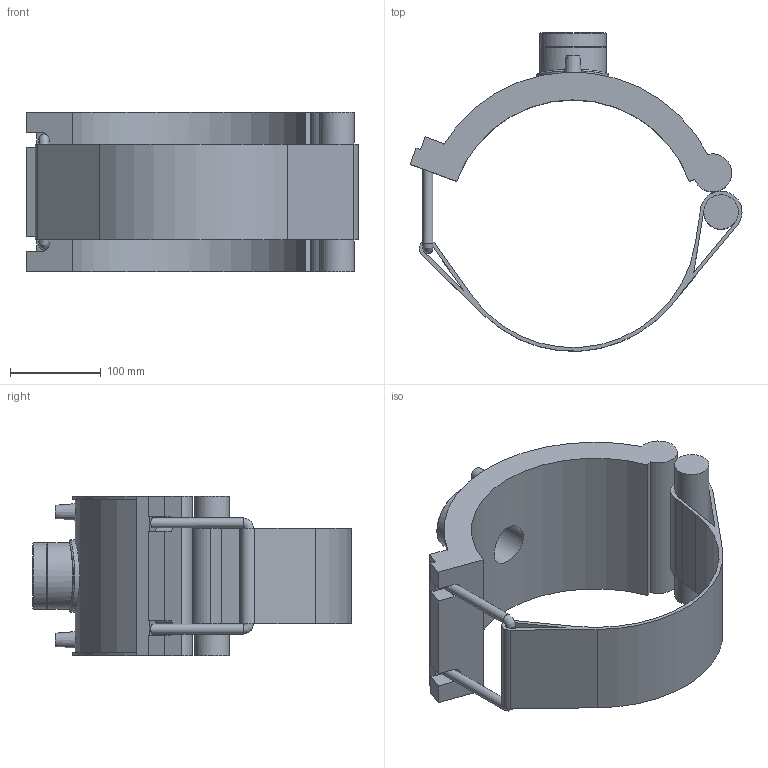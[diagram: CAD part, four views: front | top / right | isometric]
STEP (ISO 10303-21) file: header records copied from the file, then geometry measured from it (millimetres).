
FILE_DESCRIPTION(/* description */ ('PLASSON TRANSITION SADDLE 10''''IPS x 2"NPT'),/* implementation_level */ '2;1');
FILE_NAME(/* name */ 'C:\Dropbox\KIMPROJECTS-Inventor 2019\99-16-3568-Processing Inch\ASTM ElectroFusion 2021\5938B\5938B00310055.ipt.stp',/* time_stamp */ '2021-08-30T09:51:35+03:00',/* author */ ('KIM'),/* organization */ (''),/* preprocessor_version */ 'ST-DEVELOPER v17.2',/* originating_system */ 'Autodesk Inventor 2019',/* authorisation */ '');
FILE_SCHEMA (('AUTOMOTIVE_DESIGN { 1 0 10303 214 3 1 1 }'));
Length unit declared in the file: inch
Products named in the file (1): 5938B00310055
Bounding box: 365.45 x 350.59 x 176.02 mm (x, y, z)
Volume: 2690522.6 mm3; surface area: 379457.7 mm2
Topology: 1 solids, 1 shells, 78 faces, 196 edges, 128 vertices
Faces by surface type: plane 42, cylinder 28, cone 5, torus 2, bspline 1
Full cylindrical faces by diameter (mm): 4 x2, 10 x2, 10.908 x2, 37.968 x1, 45.325 x1, 56.656 x1, 72.653 x1, 73.653 x2, 79.318 x1
Entity records: 2806 total; most frequent: CARTESIAN_POINT 815, DIRECTION 414, ORIENTED_EDGE 394, EDGE_CURVE 197, AXIS2_PLACEMENT_3D 150, VERTEX_POINT 128, LINE 114, VECTOR 114
